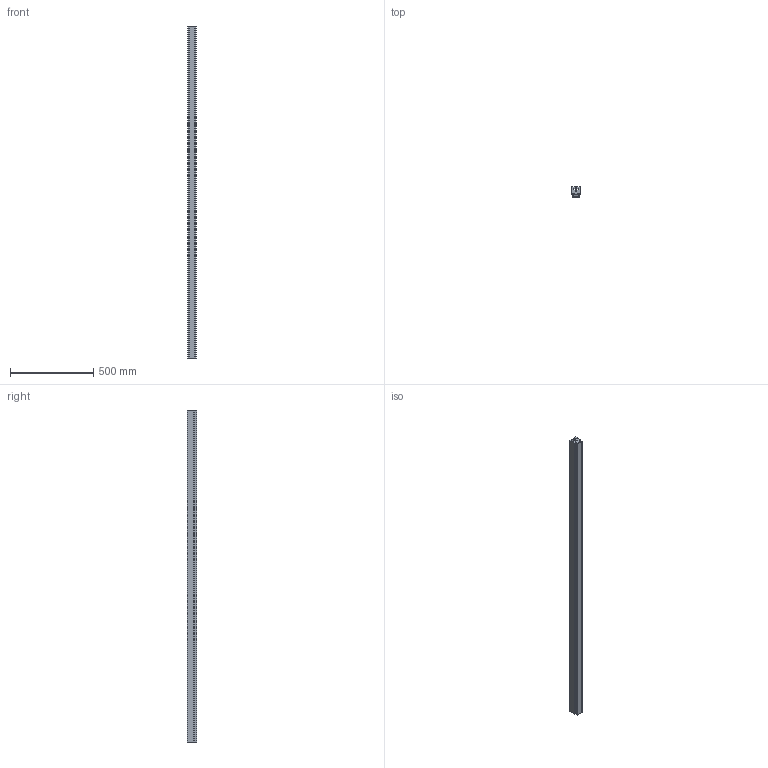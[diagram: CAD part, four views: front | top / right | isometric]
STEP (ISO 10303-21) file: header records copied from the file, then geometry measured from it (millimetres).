
FILE_DESCRIPTION (( 'STEP AP214' ), '1' );
FILE_NAME ('GHEL10SS.STEP', '2024-01-24T09:50:30', ( '' ), ( '' ), 'SwSTEP 2.0', 'SolidWorks 2022', '' );
FILE_SCHEMA (( 'AUTOMOTIVE_DESIGN' ));
Length unit declared in the file: millimetre
Products named in the file (3): GHEL10SS; GHEL10.SG_GHEL 10; C3818_C3818
Assembly tree (2 placements, depth 2):
  GHEL10SS
    GHEL10.SG_GHEL 10
    C3818_C3818
Bounding box: 50 x 60 x 2000 mm (x, y, z)
Volume: 3804283.2 mm3; surface area: 994684.4 mm2
Topology: 2 solids, 2 shells, 48 faces, 132 edges, 88 vertices
Faces by surface type: plane 44, cylinder 4
Entity records: 1812 total; most frequent: CARTESIAN_POINT 273, ORIENTED_EDGE 264, DIRECTION 246, EDGE_CURVE 132, LINE 124, VECTOR 124, VERTEX_POINT 88, AXIS2_PLACEMENT_3D 61
